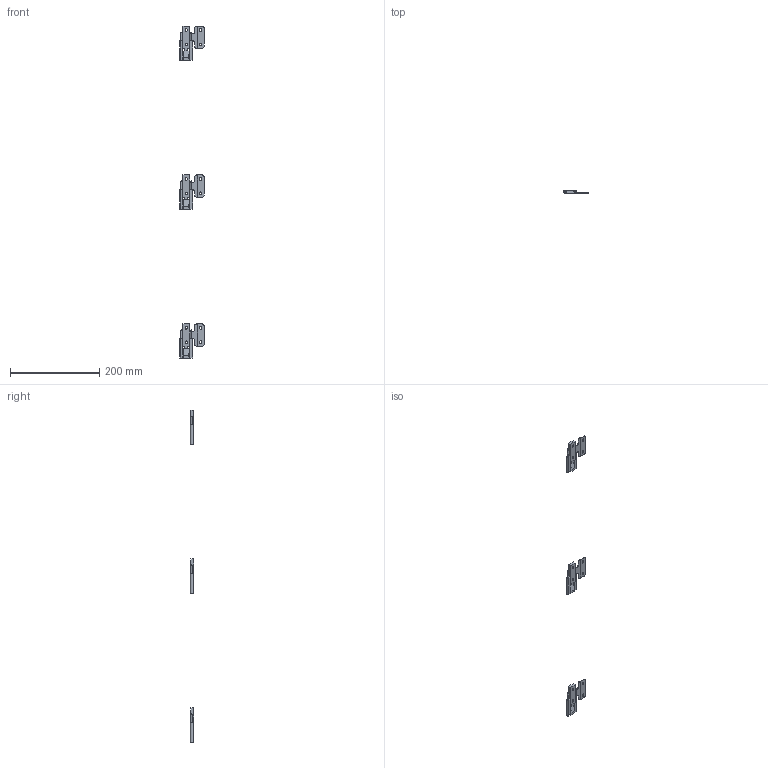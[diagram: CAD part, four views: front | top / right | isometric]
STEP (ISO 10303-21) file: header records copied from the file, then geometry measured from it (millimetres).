
FILE_DESCRIPTION( ( 'STEP AP214' ), '1' );
FILE_NAME( 'C:/Users/KOSH/Desktop/Export/Wingline L/9277908.stp', '2020-02-17T10:07:18', ( '' ), ( '' ), ' ', 'PARTsolutions', ' ' );
FILE_SCHEMA( ( 'AUTOMOTIVE_DESIGN { 1 0 10303 214 1 1 1 1 }' ) );
Length unit declared in the file: millimetre
Products named in the file (3): 9277908; _9229920; _9236605
Assembly tree (6 placements, depth 2):
  9277908
    _9229920  x3
    _9236605  x3
Bounding box: 54.5 x 7.25 x 744.5 mm (x, y, z)
Volume: 30364 mm3; surface area: 24932.5 mm2
Topology: 6 solids, 6 shells, 213 faces, 567 edges, 372 vertices
Faces by surface type: plane 150, cylinder 57, cone 6
Full cylindrical faces by diameter (mm): 0.5 x6, 3 x6, 5.5 x6, 5.6 x6
Entity records: 2785 total; most frequent: CARTESIAN_POINT 373, DIRECTION 373, ORIENTED_EDGE 350, EDGE_CURVE 175, LINE 133, VECTOR 133, AXIS2_PLACEMENT_3D 120, VERTEX_POINT 120
